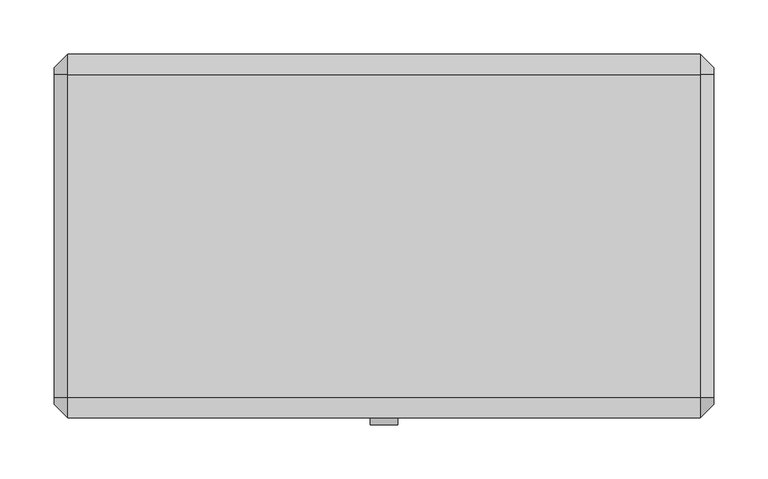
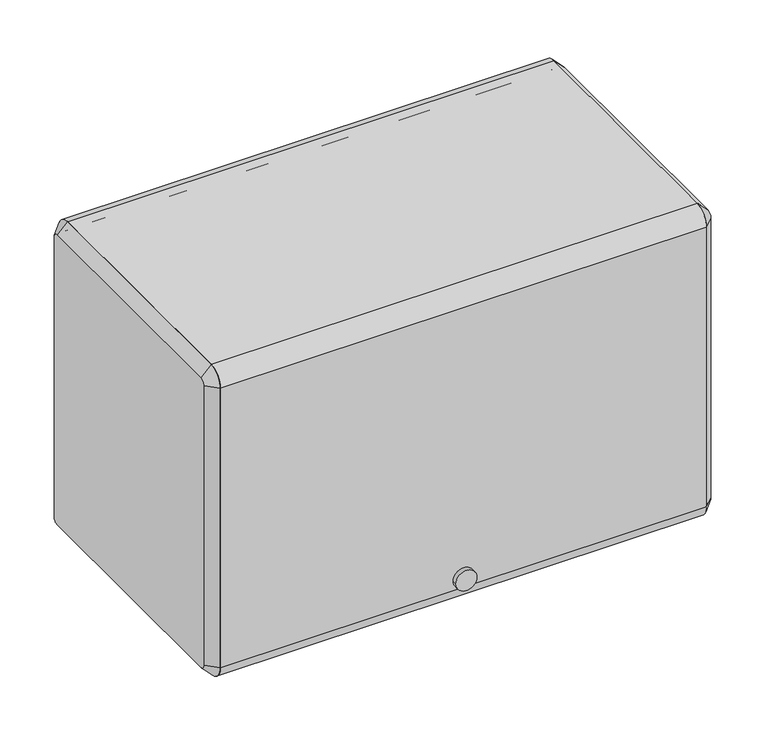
"""IFC4 building model written with IfcOpenShell, lengths in millimetres: furniture geometry."""

from ifc_helpers import new_model, si_unit, point, frame, frame_2d, origin, place, context, project, spatial, polyline, circle_curve, trimmed, segment, composite_curve, outline, extrude, source, transform, mapped, element, save
from ifc_brep_helpers import plane_surface, revolved_surface, advanced_brep


def furniture_b55deac3(model_context):
    return source(origin(), model_context, "Body", "SolidModel", [
        extrude(outline(composite_curve([segment(polyline([(-136.525, 1917.7), (-136.525, 1930.4), (161.925, 1930.4)]), True, "CONTINUOUS"), segment(trimmed(circle_curve(frame_2d((161.925, 1911.35)), 19.05), [point((161.925, 1930.4))], [point((180.975, 1911.35))], False, "CARTESIAN"), True, "CONTINUOUS"), segment(polyline([(180.975, 1911.35), (168.275, 1911.35)]), True, "CONTINUOUS"), segment(trimmed(circle_curve(frame_2d((161.925, 1911.35)), 6.35), [point((168.275, 1911.35))], [point((161.925, 1917.7))], True, "CARTESIAN"), True, "CONTINUOUS"), segment(polyline([(161.925, 1917.7), (-136.525, 1917.7)]), True, "CONTINUOUS")], self_intersect=False)), frame((-292.1, 0.0, 0.0), z_axis=(1.0, 0.0, 0.0), x_axis=(0.0, 1.0, 0.0)), (0.0, 0.0, 1.0), 584.2),
        extrude(outline(composite_curve([segment(trimmed(circle_curve(frame_2d((-136.525, 1911.35)), 19.05), [point((-155.575, 1911.35))], [point((-136.525, 1930.4))], False, "CARTESIAN"), True, "CONTINUOUS"), segment(polyline([(-136.525, 1930.4), (-136.525, 1917.7)]), True, "CONTINUOUS"), segment(trimmed(circle_curve(frame_2d((-136.525, 1911.35)), 6.35), [point((-136.525, 1917.7))], [point((-142.875, 1911.35))], True, "CARTESIAN"), True, "CONTINUOUS"), segment(polyline([(-142.875, 1911.35), (-142.875, 1555.75)]), True, "CONTINUOUS"), segment(trimmed(circle_curve(frame_2d((-136.525, 1555.75)), 6.35), [point((-142.875, 1555.75))], [point((-136.525, 1549.4))], True, "CARTESIAN"), True, "CONTINUOUS"), segment(polyline([(-136.525, 1549.4), (-136.525, 1536.7)]), True, "CONTINUOUS"), segment(trimmed(circle_curve(frame_2d((-136.525, 1555.75)), 19.05), [point((-136.525, 1536.7))], [point((-155.575, 1555.75))], False, "CARTESIAN"), True, "CONTINUOUS"), segment(polyline([(-155.575, 1555.75), (-155.575, 1911.35)]), True, "CONTINUOUS")], self_intersect=False)), frame((-292.1, 0.0, 0.0), z_axis=(1.0, 0.0, 0.0), x_axis=(0.0, 1.0, 0.0)), (0.0, 0.0, 1.0), 584.2),
        extrude(outline(composite_curve([segment(trimmed(circle_curve(frame_2d((1568.4118906, 0.0201199)), 12.7253951), [point((1568.4118906, 12.745515))], [point((1568.4118906, -12.7052752))], False, "CARTESIAN"), True, "CONTINUOUS"), segment(trimmed(circle_curve(frame_2d((1568.4118906, 0.0201199)), 12.7253951), [point((1568.4118906, -12.7052752))], [point((1568.4118906, 12.745515))], False, "CARTESIAN"), True, "CONTINUOUS")], self_intersect=False)), frame((0.0, -161.925, 0.0), z_axis=(0.0, 1.0, 0.0), x_axis=(0.0, 0.0, 1.0)), (0.0, 0.0, 1.0), 6.35),
        extrude(outline(polyline([(-136.525, 1574.8), (161.925, 1574.8), (161.925, 1612.9), (174.625, 1612.9), (174.625, 1609.725), (165.1, 1609.725), (165.1, 1571.625), (-133.35, 1571.625), (-133.35, 1552.575), (-136.525, 1552.575), (-136.525, 1574.8)])), frame((-292.1, 0.0, 0.0), z_axis=(1.0, 0.0, 0.0), x_axis=(0.0, 1.0, 0.0)), (0.0, 0.0, 1.0), 584.2),
        advanced_brep(
        [(304.8, 161.925, 1917.7), (304.8, -136.525, 1917.7), (304.8, -142.875, 1911.35), (304.8, -142.875, 1555.75), (304.8, -136.525, 1549.4), (304.8, 161.925, 1549.4), (304.8, 168.275, 1555.75), (304.8, 168.275, 1911.35), (292.1, 161.925, 1930.4), (292.1, 180.975, 1911.35), (292.1, 180.975, 1555.75), (292.1, 161.925, 1536.7), (292.1, -136.525, 1536.7), (292.1, -155.575, 1555.75), (292.1, -155.575, 1911.35), (292.1, -136.525, 1930.4)],
        [
            (0, 1),
            (1, 2, circle_curve(frame((304.8, -136.525, 1911.35), z_axis=(1.0, 6.490807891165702e-12, -6.608047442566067e-12), x_axis=(6.60804813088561e-12, 0.0, 1.0)), 6.35)),
            (2, 3),
            (3, 4, circle_curve(frame((304.8, -136.525, 1555.75), z_axis=(1.0, 3.3733016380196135e-12, 3.367972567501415e-12), x_axis=(3.3733436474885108e-12, -1.0, 0.0)), 6.35)),
            (4, 5),
            (5, 6, circle_curve(frame((304.8, 161.925, 1555.75), z_axis=(1.0, 3.381295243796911e-12, -3.4106051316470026e-12), x_axis=(-3.4105548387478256e-12, 0.0, -1.0)), 6.35)),
            (6, 7),
            (7, 0, circle_curve(frame((304.8, 161.925, 1911.35), z_axis=(1.0, 6.4828142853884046e-12, 6.39488462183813e-12), x_axis=(-6.482754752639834e-12, 1.0, 0.0)), 6.35)),
            (8, 9, circle_curve(frame((292.1, 161.925, 1911.35), z_axis=(-1.0, -6.4828142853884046e-12, -6.39488462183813e-12), x_axis=(-6.482754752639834e-12, 1.0, 0.0)), 19.05)),
            (9, 10),
            (10, 11, circle_curve(frame((292.1, 161.925, 1555.75), z_axis=(-1.0, -3.381295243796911e-12, 3.4106051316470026e-12), x_axis=(-3.4105548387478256e-12, 0.0, -1.0)), 19.05)),
            (11, 12),
            (12, 13, circle_curve(frame((292.1, -136.525, 1555.75), z_axis=(-1.0, -3.3733016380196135e-12, -3.367972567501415e-12), x_axis=(3.3733436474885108e-12, -1.0, 0.0)), 19.05)),
            (13, 14),
            (14, 15, circle_curve(frame((292.1, -136.525, 1911.35), z_axis=(-1.0, -6.490807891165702e-12, 6.608047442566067e-12), x_axis=(6.60804813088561e-12, 0.0, 1.0)), 19.05)),
            (15, 8),
            (15, 1),
            (0, 8),
            (14, 2),
            (13, 3),
            (12, 4),
            (11, 5),
            (10, 6),
            (9, 7),
        ],
        [
            plane_surface(frame((304.8, 12.7, 1733.55), z_axis=(1.0, 0.0, 0.0), x_axis=(0.0, -1.0, 0.0))),
            plane_surface(frame((292.1, 12.7, 1733.55), z_axis=(-1.0, 0.0, 0.0), x_axis=(0.0, -1.0, 0.0))),
            plane_surface(frame((292.1, 12.7, 1930.4), z_axis=(0.7071067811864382, 0.0, 0.7071067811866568), x_axis=(0.0, -1.0, 0.0))),
            revolved_surface(polyline([(304.80000000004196, -136.525, 1917.699999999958), (292.1, -136.525, 1930.4)]), (311.15, -136.525, 1911.35), (-1.0, -6.490807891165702e-12, 6.608047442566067e-12)),
            plane_surface(frame((292.1, -155.575, 1733.55), z_axis=(0.707106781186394, -0.7071067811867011, 0.0), x_axis=(0.0, 0.0, -1.0))),
            revolved_surface(polyline([(304.80000000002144, -142.87499999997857, 1555.75), (292.1, -155.575, 1555.75)]), (311.15, -136.525, 1555.75), (-1.0, -3.3733016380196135e-12, -3.367972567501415e-12)),
            plane_surface(frame((292.1, 12.7, 1536.7), z_axis=(0.7071067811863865, 0.0, -0.7071067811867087), x_axis=(0.0, 1.0, 0.0))),
            revolved_surface(polyline([(304.8, 161.925, 1549.4), (292.09999999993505, 161.925, 1536.699999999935)]), (311.15, 161.925, 1555.75), (-1.0, -3.381295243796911e-12, 3.4106051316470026e-12)),
            plane_surface(frame((292.1, 180.975, 1733.55), z_axis=(0.707106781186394, 0.7071067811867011, 0.0), x_axis=(0.0, 0.0, 1.0))),
            revolved_surface(polyline([(304.8, 168.27499999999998, 1911.35), (292.0999999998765, 180.9750000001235, 1911.35)]), (311.15, 161.925, 1911.35), (-1.0, -6.4828142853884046e-12, -6.39488462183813e-12)),
        ],
        [
            (0, [[1, 2, 3, 4, 5, 6, 7, 8]]),
            (1, [[9, 10, 11, 12, 13, 14, 15, 16]]),
            (2, [[-16, 17, -1, 18]]),
            (3, [[-15, 19, -2, -17]]),
            (4, [[-14, 20, -3, -19]]),
            (5, [[-13, 21, -4, -20]]),
            (6, [[-12, 22, -5, -21]]),
            (7, [[-11, 23, -6, -22]]),
            (8, [[-10, 24, -7, -23]]),
            (9, [[-9, -18, -8, -24]]),
        ],
    ),
        advanced_brep(
        [(-304.8, -136.525, 1917.7), (-304.8, 161.925, 1917.7), (-304.8, 168.275, 1911.35), (-304.8, 168.275, 1555.75), (-304.8, 161.925, 1549.4), (-304.8, -136.525, 1549.4), (-304.8, -142.875, 1555.75), (-304.8, -142.875, 1911.35), (-292.1, -136.525, 1930.4), (-292.1, -155.575, 1911.35), (-292.1, -155.575, 1555.75), (-292.1, -136.525, 1536.7), (-292.1, 161.925, 1536.7), (-292.1, 180.975, 1555.75), (-292.1, 180.975, 1911.35), (-292.1, 161.925, 1930.4)],
        [
            (0, 1),
            (1, 2, circle_curve(frame((-304.8, 161.925, 1911.35), z_axis=(-1.0, 3.365308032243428e-12, 3.4319214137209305e-12), x_axis=(3.4319080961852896e-12, 0.0, 1.0)), 6.35)),
            (2, 3),
            (3, 4, circle_curve(frame((-304.8, 161.925, 1555.75), z_axis=(-1.0, 0.0, 0.0), x_axis=(0.0, 1.0, 0.0)), 6.35)),
            (4, 5),
            (5, 6, circle_curve(frame((-304.8, -136.525, 1555.75), z_axis=(-1.0, 0.0, 0.0), x_axis=(0.0, 0.0, -1.0)), 6.35)),
            (6, 7),
            (7, 0, circle_curve(frame((-304.8, -136.525, 1911.35), z_axis=(-1.0, 3.381295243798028e-12, -3.2827074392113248e-12), x_axis=(-3.3813511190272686e-12, -1.0, 0.0)), 6.35)),
            (8, 9, circle_curve(frame((-292.1, -136.525, 1911.35), z_axis=(1.0, -3.381295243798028e-12, 3.2827074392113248e-12), x_axis=(-3.3813511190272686e-12, -1.0, 0.0)), 19.05)),
            (9, 10),
            (10, 11, circle_curve(frame((-292.1, -136.525, 1555.75), z_axis=(1.0, 0.0, 0.0), x_axis=(0.0, 0.0, -1.0)), 19.05)),
            (11, 12),
            (12, 13, circle_curve(frame((-292.1, 161.925, 1555.75), z_axis=(1.0, 0.0, 0.0), x_axis=(0.0, 1.0, 0.0)), 19.05)),
            (13, 14),
            (14, 15, circle_curve(frame((-292.1, 161.925, 1911.35), z_axis=(1.0, -3.365308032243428e-12, -3.4319214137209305e-12), x_axis=(3.4319080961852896e-12, 0.0, 1.0)), 19.05)),
            (15, 8),
            (15, 1),
            (0, 8),
            (14, 2),
            (13, 3),
            (12, 4),
            (11, 5),
            (10, 6),
            (9, 7),
        ],
        [
            plane_surface(frame((-304.8, 12.7, 1733.55), z_axis=(-1.0, 0.0, 0.0), x_axis=(0.0, -1.0, 0.0))),
            plane_surface(frame((-292.1, 12.7, 1733.55), z_axis=(1.0, 0.0, 0.0), x_axis=(0.0, -1.0, 0.0))),
            plane_surface(frame((-292.1, 12.7, 1930.4), z_axis=(-0.7071067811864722, 0.0, 0.707106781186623), x_axis=(0.0, 1.0, 0.0))),
            revolved_surface(polyline([(-304.8, 161.925, 1917.7), (-292.09999999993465, 161.925, 1930.4000000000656)]), (-311.15, 161.925, 1911.35), (1.0, -3.365308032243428e-12, -3.4319214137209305e-12)),
            plane_surface(frame((-292.1, 180.975, 1733.55), z_axis=(-0.7071067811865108, 0.7071067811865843, 0.0), x_axis=(0.0, 0.0, -1.0))),
            revolved_surface(polyline([(-304.8, 168.27499999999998, 1555.75), (-292.1, 180.975, 1555.75)]), (-311.15, 161.925, 1555.75), (1.0, 0.0, 0.0)),
            plane_surface(frame((-292.1, 12.7, 1536.7), z_axis=(-0.707106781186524, 0.0, -0.7071067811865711), x_axis=(0.0, -1.0, 0.0))),
            revolved_surface(polyline([(-304.8, -136.525, 1549.4), (-292.1, -136.525, 1536.7)]), (-311.15, -136.525, 1555.75), (1.0, 0.0, 0.0)),
            plane_surface(frame((-292.1, -155.575, 1733.55), z_axis=(-0.7071067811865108, -0.7071067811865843, 0.0), x_axis=(0.0, 0.0, 1.0))),
            revolved_surface(polyline([(-304.8000000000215, -142.8749999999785, 1911.35), (-292.1, -155.575, 1911.35)]), (-311.15, -136.525, 1911.35), (1.0, -3.381295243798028e-12, 3.2827074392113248e-12)),
        ],
        [
            (0, [[1, 2, 3, 4, 5, 6, 7, 8]]),
            (1, [[9, 10, 11, 12, 13, 14, 15, 16]]),
            (2, [[-16, 17, -1, 18]]),
            (3, [[-15, 19, -2, -17]]),
            (4, [[-14, 20, -3, -19]]),
            (5, [[-13, 21, -4, -20]]),
            (6, [[-12, 22, -5, -21]]),
            (7, [[-11, 23, -6, -22]]),
            (8, [[-10, 24, -7, -23]]),
            (9, [[-9, -18, -8, -24]]),
        ],
    ),
    ])


if __name__ == "__main__":
    model = new_model("IFC4")
    model_context = context("Model", 3, world=origin())
    ifc_project = project(units=[si_unit("LENGTHUNIT", "METRE", prefix="MILLI")], contexts=[model_context])
    site = spatial("IfcSite", under=ifc_project)
    building = spatial("IfcBuilding", under=site)
    placement = place(None, origin())
    furniture_shape = furniture_b55deac3(model_context)
    element("IfcFurniture", 1, ObjectType="HermanMiller_ActionOffice_A3352_B-StyleFlipperDoorUnit : 15 1/2\"H x 13\"D x 24\"W", at=placement, inside=building, context=model_context, shape_type="MappedRepresentation", body=[
        mapped(furniture_shape, transform((0.0, 0.0, 0.0), x_axis=(1.0, 0.0, 0.0), y_axis=(0.0, 1.0, 0.0), z_axis=(0.0, 0.0, 1.0))),
    ])
    save(model, "model.ifc")
